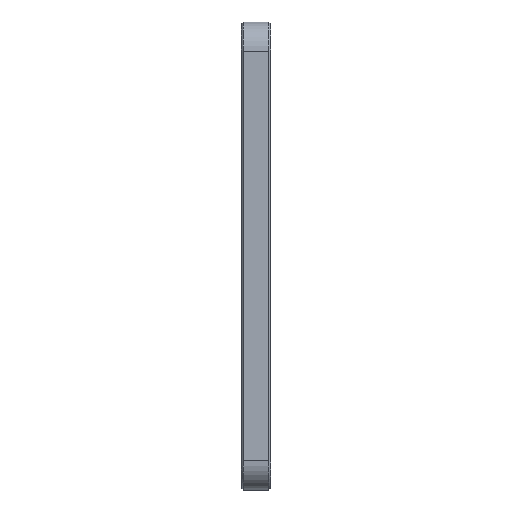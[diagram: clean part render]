
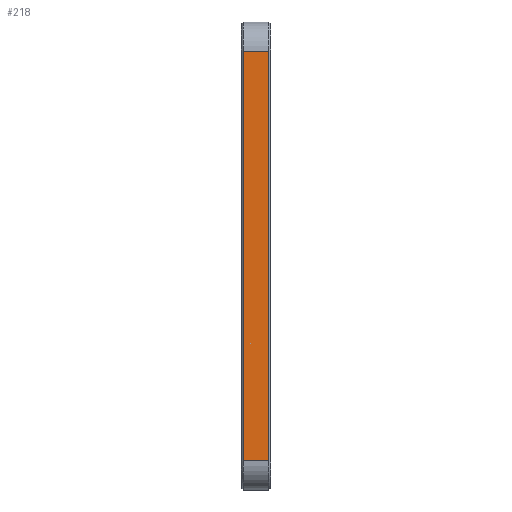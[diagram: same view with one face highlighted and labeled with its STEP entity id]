
A CAD part, left-side view. The second image highlights one B-rep face of the part: STEP entity #218.
In plain terms, the highlighted planar face has unit normal (-1, 0, 0).
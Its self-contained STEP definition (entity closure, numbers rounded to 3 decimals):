
#32 = VECTOR ( 'NONE', #1032, 1000. ) ;
#71 = EDGE_CURVE ( 'NONE', #1597, #1239, #176, .T. ) ;
#176 = LINE ( 'NONE', #1533, #816 ) ;
#218 = ADVANCED_FACE ( 'NONE', ( #819 ), #1151, .F. ) ;
#250 = ORIENTED_EDGE ( 'NONE', *, *, #328, .T. ) ;
#281 = CARTESIAN_POINT ( 'NONE',  ( -60., 0.3, -35. ) ) ;
#328 = EDGE_CURVE ( 'NONE', #1803, #1597, #1633, .T. ) ;
#357 = CARTESIAN_POINT ( 'NONE',  ( -60., 4.7, -35. ) ) ;
#406 = CARTESIAN_POINT ( 'NONE',  ( -60., 5., -40. ) ) ;
#449 = CARTESIAN_POINT ( 'NONE',  ( -60., 0.3, 35. ) ) ;
#522 = DIRECTION ( 'NONE',  ( 0., 0., -1. ) ) ;
#554 = LINE ( 'NONE', #1882, #1780 ) ;
#569 = EDGE_CURVE ( 'NONE', #1416, #1803, #554, .T. ) ;
#581 = CARTESIAN_POINT ( 'NONE',  ( -60., 5., 35. ) ) ;
#604 = VECTOR ( 'NONE', #1750, 1000. ) ;
#711 = LINE ( 'NONE', #581, #32 ) ;
#713 = ORIENTED_EDGE ( 'NONE', *, *, #1646, .T. ) ;
#816 = VECTOR ( 'NONE', #1242, 1000. ) ;
#819 = FACE_OUTER_BOUND ( 'NONE', #1905, .T. ) ;
#873 = CARTESIAN_POINT ( 'NONE',  ( -60., 5., -35. ) ) ;
#1008 = DIRECTION ( 'NONE',  ( 0., 0., -1. ) ) ;
#1032 = DIRECTION ( 'NONE',  ( 0., 1., 0. ) ) ;
#1058 = ORIENTED_EDGE ( 'NONE', *, *, #71, .T. ) ;
#1146 = ORIENTED_EDGE ( 'NONE', *, *, #569, .T. ) ;
#1151 = PLANE ( 'NONE',  #1402 ) ;
#1239 = VERTEX_POINT ( 'NONE', #449 ) ;
#1242 = DIRECTION ( 'NONE',  ( 0., 0., 1. ) ) ;
#1402 = AXIS2_PLACEMENT_3D ( 'NONE', #406, #1740, #1008 ) ;
#1416 = VERTEX_POINT ( 'NONE', #1522 ) ;
#1522 = CARTESIAN_POINT ( 'NONE',  ( -60., 4.7, 35. ) ) ;
#1533 = CARTESIAN_POINT ( 'NONE',  ( -60., 0.3, 35. ) ) ;
#1597 = VERTEX_POINT ( 'NONE', #281 ) ;
#1633 = LINE ( 'NONE', #873, #604 ) ;
#1646 = EDGE_CURVE ( 'NONE', #1239, #1416, #711, .T. ) ;
#1740 = DIRECTION ( 'NONE',  ( 1., 0., 0. ) ) ;
#1750 = DIRECTION ( 'NONE',  ( 0., -1., 0. ) ) ;
#1780 = VECTOR ( 'NONE', #522, 1000. ) ;
#1803 = VERTEX_POINT ( 'NONE', #357 ) ;
#1882 = CARTESIAN_POINT ( 'NONE',  ( -60., 4.7, -40. ) ) ;
#1905 = EDGE_LOOP ( 'NONE', ( #250, #1058, #713, #1146 ) ) ;
